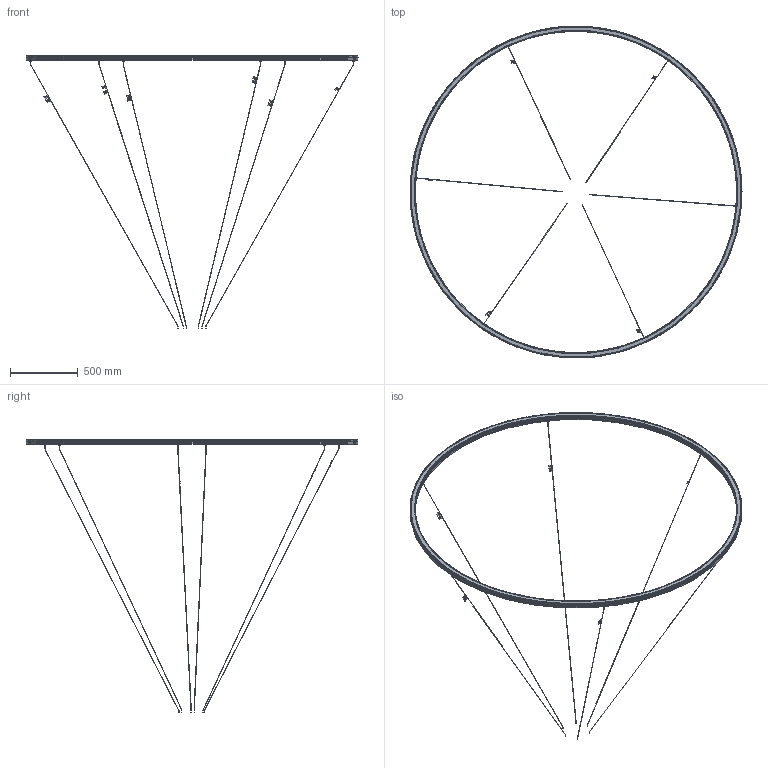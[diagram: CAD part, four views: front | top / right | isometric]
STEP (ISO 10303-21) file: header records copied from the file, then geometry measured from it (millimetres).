
FILE_DESCRIPTION(/* description */ ('Unknown'),/* implementation_level */ '2;1');
FILE_NAME(/* name */ 'TOUR_PD 96.5',/* time_stamp */ '2023-01-24T05:18:49-05:00',/* author */ ('Unknown'),/* organization */ ('Unknown'),/* preprocessor_version */ 'ST-DEVELOPER v18.1',/* originating_system */ 'Solid Edge',/* authorisation */ 'Unknown');
FILE_SCHEMA (('AP242_MANAGED_MODEL_BASED_3D_ENGINEERING_MIM_LF { 1 0 10303 442 1 1 4 }','AUTOMOTIVE_DESIGN {1 0 10303 214 3 1 1}'));
Products named in the file (1): TOUR_PD 96.5
Bounding box: 2450.2 x 2450 x 2020.87 mm (x, y, z)
Volume: 3685328.7 mm3; surface area: 3129616.2 mm2
Topology: 7 solids, 9 shells, 1362 faces, 3373 edges, 2214 vertices
Faces by surface type: plane 885, bspline 176, cylinder 164, cone 82, torus 55
Full cylindrical faces by diameter (mm): 2.8 x18, 3 x6, 4.134 x6, 12.4 x6, 2376 x2, 2380 x5, 2380.5 x1, 2382.9 x1, 2401.4 x1, 2410.006 x4, 2410.508 x5, 2415.505 x4, 2416.007 x4, 2416.057 x1, 2424.6 x1, 2429.3 x1, 2436.3 x1, 2441 x1, 2442.2 x3, 2443.1 x1, 2445.5 x1, 2446 x5, 2450 x2
Entity records: 54942 total; most frequent: CARTESIAN_POINT 17365, ORIENTED_EDGE 6192, DIRECTION 4362, EDGE_CURVE 3096, VERTEX_POINT 2150, FACE_BOUND 1790, EDGE_LOOP 1784, AXIS2_PLACEMENT_3D 1663
